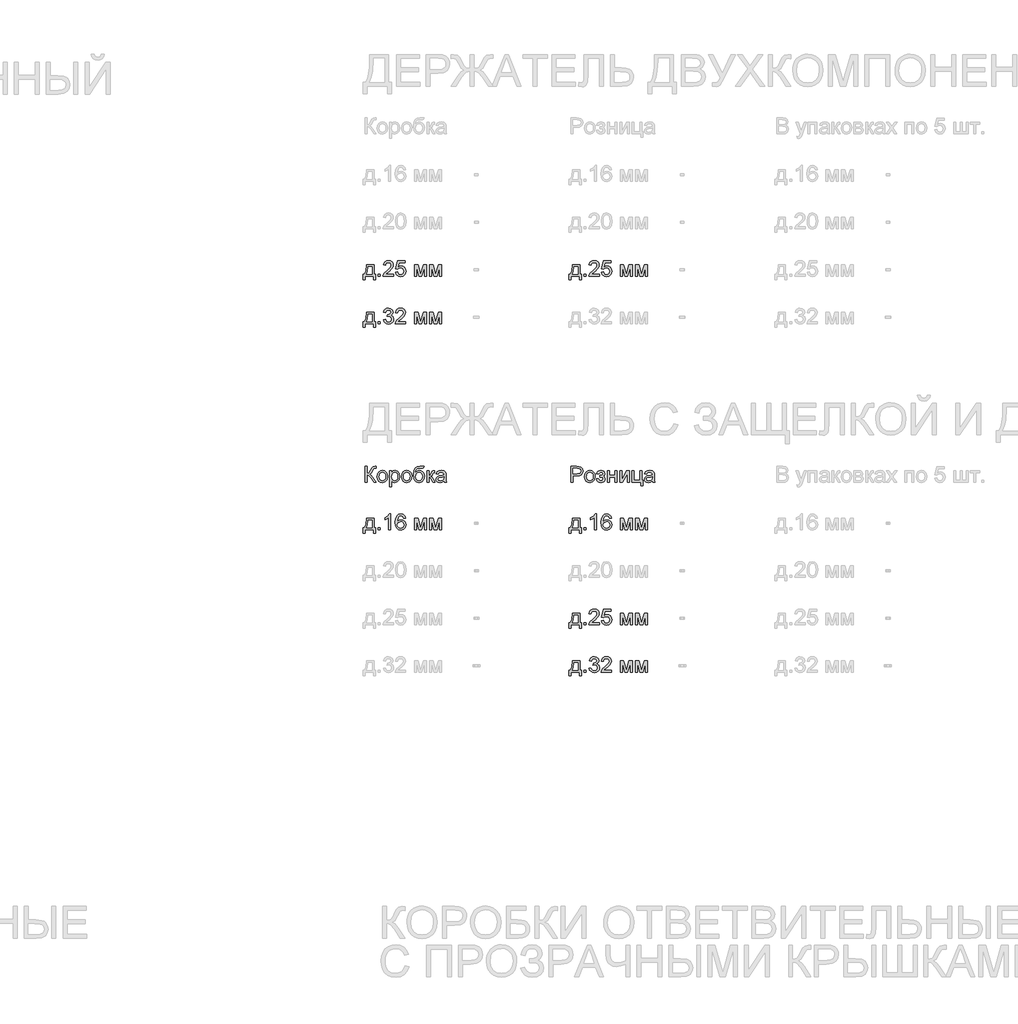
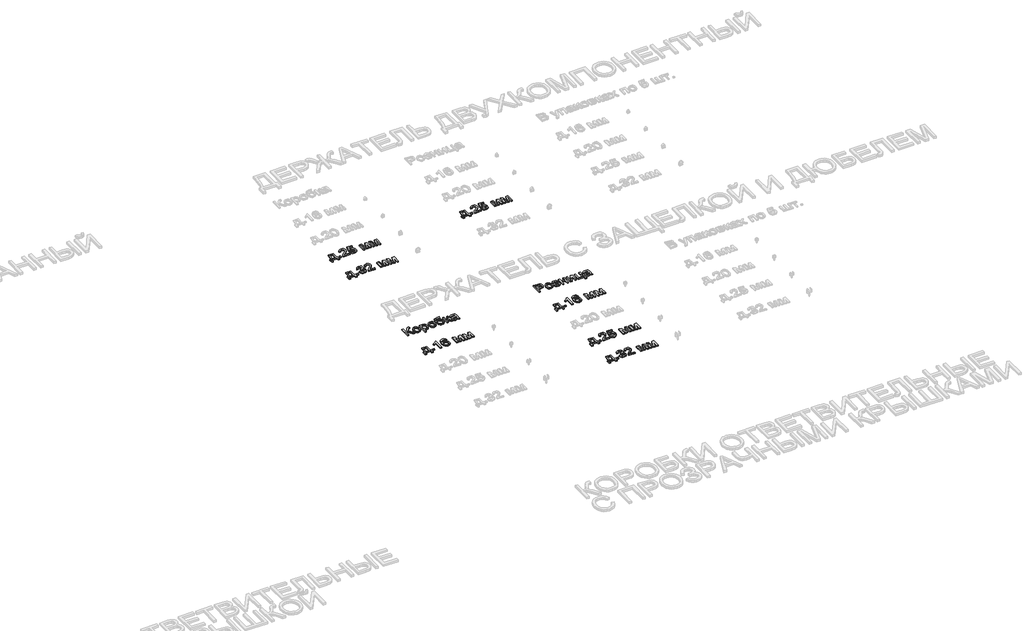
# One storey, part 36 of 98: 9 proxies.
"""IFC4 building model written with IfcOpenShell, lengths in millimetres."""

from ifc_helpers import new_model, si_unit, origin, origin_with_axes, place, context, project, spatial, polyline, outline, extrude, element, save

model = new_model("IFC4")

# Units and contexts
model_context = context("Model", 3, world=origin())
ifc_project = project(units=[si_unit("LENGTHUNIT", "METRE", prefix="MILLI")], contexts=[model_context])

# Site, building, storey
site = spatial("IfcSite", under=ifc_project)
building = spatial("IfcBuilding", under=site)
storey = spatial("IfcBuildingStorey", under=building, Name="Этаж 01", Elevation=0.0)

# Proxies
placement = place(None, origin())
element("IfcBuildingElementProxy", 1, Name="100", ObjectType="100", at=placement, inside=storey, context=model_context, shape_type="SweptSolid", body=[
    extrude(outline(polyline([(5774.7606918, -37185.7395637), (5821.8495872, -37185.7395637), (5821.8495872, -37246.9551277), (5831.2673663, -37246.9551277), (5831.2673663, -37279.9173545), (5818.7103275, -37279.9173545), (5818.7103275, -37259.5121665), (5766.9125426, -37259.5121665), (5766.9125426, -37279.9173545), (5754.3555038, -37279.9173545), (5754.3555038, -37246.9551277), (5762.2036531, -37246.9551277), (5771.903475, -37223.0060098), (5774.7606918, -37185.7395637)]), holes=[polyline([(5785.7481007, -37198.2966025), (5782.8050448, -37226.905559), (5776.3303217, -37246.9551277), (5809.2925484, -37246.9551277), (5809.2925484, -37198.2966025), (5785.7481007, -37198.2966025)])]), origin_with_axes(), (0.0, 0.0, 1.0), 10.0),
    extrude(outline(polyline([(5848.5332946, -37259.5121665), (5848.5332946, -37246.9551277), (5861.0903334, -37246.9551277), (5861.0903334, -37259.5121665), (5848.5332946, -37259.5121665)])), origin_with_axes(), (0.0, 0.0, 1.0), 10.0),
    extrude(outline(polyline([(5945.850345, -37246.9551277), (5945.850345, -37259.5121665), (5879.9258915, -37259.5121665), (5881.2747922, -37250.8546768), (5888.9022122, -37237.5250859), (5904.6230361, -37222.9692216), (5926.3035484, -37202.0489988), (5931.7236764, -37187.8242283), (5926.6101167, -37176.3095219), (5913.2560003, -37171.6128951), (5899.3377981, -37176.1991573), (5894.0525601, -37188.8788234), (5881.4955214, -37187.3091935), (5884.5397449, -37175.1629563), (5891.1217669, -37166.2908689), (5900.8982309, -37160.8646095), (5913.5257804, -37159.0558563), (5926.2453004, -37161.0669445), (5936.0033703, -37167.1002093), (5942.211379, -37176.1133182), (5944.2807152, -37187.0639389), (5942.0488978, -37198.9710528), (5934.6299442, -37211.2828369), (5916.6405146, -37228.4874515), (5902.195015, -37240.5662437), (5896.5296322, -37246.9551277), (5945.850345, -37246.9551277)])), origin_with_axes(), (0.0, 0.0, 1.0), 10.0),
    extrude(outline(polyline([(5958.4073838, -37232.8284591), (5970.9644226, -37231.2588292), (5977.2919929, -37244.1960127), (5990.4131174, -37248.5247575), (5999.4139635, -37247.019507), (6006.1584668, -37242.5037555), (6010.3707156, -37235.4986692), (6011.7747986, -37226.5254142), (6006.5140861, -37211.6139307), (5999.9075386, -37207.5120464), (5990.6093211, -37206.1447517), (5979.585124, -37208.3275182), (5972.5340524, -37213.9929009), (5959.9770137, -37212.4232711), (5970.9644226, -37160.6254862), (6019.6229478, -37160.6254862), (6019.6229478, -37173.1825249), (5981.1179657, -37173.1825249), (5975.7468885, -37200.847251), (5984.7170778, -37195.4025974), (5994.1164628, -37193.5877129), (6005.8488328, -37195.8379245), (6015.5885086, -37202.5885591), (6022.1460052, -37212.8769922), (6024.3318374, -37225.7405993), (6022.3636687, -37238.2976381), (6016.4591627, -37249.0397923), (6005.1529227, -37258.0712953), (5990.3640665, -37261.0817963), (5978.0308226, -37259.1473501), (5968.2053076, -37253.3440117), (5961.4700014, -37244.3462312), (5958.4073838, -37232.8284591)])), origin_with_axes(), (0.0, 0.0, 1.0), 10.0),
    extrude(outline(polyline([(6077.6992521, -37185.7395637), (6099.306188, -37185.7395637), (6115.9589796, -37244.7968867), (6133.911621, -37185.7395637), (6154.6111146, -37185.7395637), (6154.6111146, -37259.5121665), (6142.0540758, -37259.5121665), (6142.0540758, -37200.111487), (6124.0033326, -37259.5121665), (6107.5222192, -37259.5121665), (6090.2562909, -37197.2665329), (6090.2562909, -37259.5121665), (6077.6992521, -37259.5121665), (6077.6992521, -37185.7395637)])), origin_with_axes(), (0.0, 0.0, 1.0), 10.0),
    extrude(outline(polyline([(6173.4466727, -37185.7395637), (6195.0536086, -37185.7395637), (6211.7064002, -37244.7968867), (6229.6590416, -37185.7395637), (6250.3585352, -37185.7395637), (6250.3585352, -37259.5121665), (6237.8014964, -37259.5121665), (6237.8014964, -37200.111487), (6219.7507532, -37259.5121665), (6203.2696398, -37259.5121665), (6186.0037115, -37197.2665329), (6186.0037115, -37259.5121665), (6173.4466727, -37259.5121665), (6173.4466727, -37185.7395637)])), origin_with_axes(), (0.0, 0.0, 1.0), 10.0),
])
element("IfcBuildingElementProxy", 2, Name="100", ObjectType="100", at=placement, inside=storey, context=model_context, shape_type="SweptSolid", body=[
    extrude(outline(polyline([(5774.7606918, -37485.7395637), (5821.8495872, -37485.7395637), (5821.8495872, -37546.9551277), (5831.2673663, -37546.9551277), (5831.2673663, -37579.9173545), (5818.7103275, -37579.9173545), (5818.7103275, -37559.5121665), (5766.9125426, -37559.5121665), (5766.9125426, -37579.9173545), (5754.3555038, -37579.9173545), (5754.3555038, -37546.9551277), (5762.2036531, -37546.9551277), (5771.903475, -37523.0060098), (5774.7606918, -37485.7395637)]), holes=[polyline([(5785.7481007, -37498.2966025), (5782.8050448, -37526.905559), (5776.3303217, -37546.9551277), (5809.2925484, -37546.9551277), (5809.2925484, -37498.2966025), (5785.7481007, -37498.2966025)])]), origin_with_axes(), (0.0, 0.0, 1.0), 10.0),
    extrude(outline(polyline([(5848.5332946, -37559.5121665), (5848.5332946, -37546.9551277), (5861.0903334, -37546.9551277), (5861.0903334, -37559.5121665), (5848.5332946, -37559.5121665)])), origin_with_axes(), (0.0, 0.0, 1.0), 10.0),
    extrude(outline(polyline([(5881.4955214, -37532.8284591), (5894.0525601, -37531.2588292), (5900.9810044, -37544.4780556), (5913.9427133, -37548.5247575), (5922.551152, -37547.1329373), (5929.1975534, -37542.9574767), (5934.8629361, -37529.1741646), (5929.2466043, -37516.1879302), (5914.9727829, -37511.049845), (5906.1681405, -37512.4232711), (5907.5660921, -37499.8662323), (5909.5771803, -37500.0133851), (5923.8264763, -37496.4081416), (5928.572154, -37491.8341421), (5930.1540466, -37485.3226308), (5925.5677844, -37475.5001815), (5913.7465096, -37471.6128951), (5901.778082, -37475.5369697), (5895.62219, -37487.3091935), (5883.0651512, -37485.7395637), (5886.7623653, -37474.4639805), (5893.3413216, -37466.0456142), (5902.3421678, -37460.8032958), (5913.3050512, -37459.0558563), (5928.4495267, -37462.5016843), (5939.0445281, -37471.9194634), (5942.7110854, -37484.5868668), (5939.2284691, -37496.1628869), (5928.9277733, -37504.47702), (5942.6129835, -37513.0609332), (5947.4199749, -37529.3948938), (5945.0164792, -37541.6331015), (5937.8059921, -37551.860221), (5926.9228164, -37558.7764025), (5913.5012549, -37561.0817963), (5901.3611491, -37559.1136276), (5891.4773862, -37553.2091216), (5884.6041242, -37544.1776186), (5881.4955214, -37532.8284591)])), origin_with_axes(), (0.0, 0.0, 1.0), 10.0),
    extrude(outline(polyline([(6022.7622075, -37546.9551277), (6022.7622075, -37559.5121665), (5956.837754, -37559.5121665), (5958.1866546, -37550.8546768), (5965.8140747, -37537.5250859), (5981.5348986, -37522.9692216), (6003.2154108, -37502.0489988), (6008.6355389, -37487.8242283), (6003.5219792, -37476.3095219), (5990.1678627, -37471.6128951), (5976.2496606, -37476.1991573), (5970.9644226, -37488.8788234), (5958.4073838, -37487.3091935), (5961.4516073, -37475.1629563), (5968.0336294, -37466.2908689), (5977.8100934, -37460.8646095), (5990.4376429, -37459.0558563), (6003.1571628, -37461.0669445), (6012.9152328, -37467.1002093), (6019.1232414, -37476.1133182), (6021.1925777, -37487.0639389), (6018.9607602, -37498.9710528), (6011.5418067, -37511.2828369), (5993.5523771, -37528.4874515), (5979.1068774, -37540.5662437), (5973.4414947, -37546.9551277), (6022.7622075, -37546.9551277)])), origin_with_axes(), (0.0, 0.0, 1.0), 10.0),
    extrude(outline(polyline([(6077.6992521, -37485.7395637), (6099.306188, -37485.7395637), (6115.9589796, -37544.7968867), (6133.911621, -37485.7395637), (6154.6111146, -37485.7395637), (6154.6111146, -37559.5121665), (6142.0540758, -37559.5121665), (6142.0540758, -37500.111487), (6124.0033326, -37559.5121665), (6107.5222192, -37559.5121665), (6090.2562909, -37497.2665329), (6090.2562909, -37559.5121665), (6077.6992521, -37559.5121665), (6077.6992521, -37485.7395637)])), origin_with_axes(), (0.0, 0.0, 1.0), 10.0),
    extrude(outline(polyline([(6173.4466727, -37485.7395637), (6195.0536086, -37485.7395637), (6211.7064002, -37544.7968867), (6229.6590416, -37485.7395637), (6250.3585352, -37485.7395637), (6250.3585352, -37559.5121665), (6237.8014964, -37559.5121665), (6237.8014964, -37500.111487), (6219.7507532, -37559.5121665), (6203.2696398, -37559.5121665), (6186.0037115, -37497.2665329), (6186.0037115, -37559.5121665), (6173.4466727, -37559.5121665), (6173.4466727, -37485.7395637)])), origin_with_axes(), (0.0, 0.0, 1.0), 10.0),
])
element("IfcBuildingElementProxy", 3, Name="100", ObjectType="100", at=placement, inside=storey, context=model_context, shape_type="SweptSolid", body=[
    extrude(outline(polyline([(7074.7606918, -37185.7395637), (7121.8495872, -37185.7395637), (7121.8495872, -37246.9551277), (7131.2673663, -37246.9551277), (7131.2673663, -37279.9173545), (7118.7103275, -37279.9173545), (7118.7103275, -37259.5121665), (7066.9125426, -37259.5121665), (7066.9125426, -37279.9173545), (7054.3555038, -37279.9173545), (7054.3555038, -37246.9551277), (7062.2036531, -37246.9551277), (7071.903475, -37223.0060098), (7074.7606918, -37185.7395637)]), holes=[polyline([(7085.7481007, -37198.2966025), (7082.8050448, -37226.905559), (7076.3303217, -37246.9551277), (7109.2925484, -37246.9551277), (7109.2925484, -37198.2966025), (7085.7481007, -37198.2966025)])]), origin_with_axes(), (0.0, 0.0, 1.0), 10.0),
    extrude(outline(polyline([(7148.5332946, -37259.5121665), (7148.5332946, -37246.9551277), (7161.0903334, -37246.9551277), (7161.0903334, -37259.5121665), (7148.5332946, -37259.5121665)])), origin_with_axes(), (0.0, 0.0, 1.0), 10.0),
    extrude(outline(polyline([(7245.850345, -37246.9551277), (7245.850345, -37259.5121665), (7179.9258915, -37259.5121665), (7181.2747922, -37250.8546768), (7188.9022122, -37237.5250859), (7204.6230361, -37222.9692216), (7226.3035484, -37202.0489988), (7231.7236764, -37187.8242283), (7226.6101167, -37176.3095219), (7213.2560003, -37171.6128951), (7199.3377981, -37176.1991573), (7194.0525601, -37188.8788234), (7181.4955214, -37187.3091935), (7184.5397449, -37175.1629563), (7191.1217669, -37166.2908689), (7200.8982309, -37160.8646095), (7213.5257804, -37159.0558563), (7226.2453004, -37161.0669445), (7236.0033703, -37167.1002093), (7242.211379, -37176.1133182), (7244.2807152, -37187.0639389), (7242.0488978, -37198.9710528), (7234.6299442, -37211.2828369), (7216.6405146, -37228.4874515), (7202.195015, -37240.5662437), (7196.5296322, -37246.9551277), (7245.850345, -37246.9551277)])), origin_with_axes(), (0.0, 0.0, 1.0), 10.0),
    extrude(outline(polyline([(7258.4073838, -37232.8284591), (7270.9644226, -37231.2588292), (7277.2919929, -37244.1960127), (7290.4131174, -37248.5247575), (7299.4139635, -37247.019507), (7306.1584668, -37242.5037555), (7310.3707156, -37235.4986692), (7311.7747986, -37226.5254142), (7306.5140861, -37211.6139307), (7299.9075386, -37207.5120464), (7290.6093211, -37206.1447517), (7279.585124, -37208.3275182), (7272.5340524, -37213.9929009), (7259.9770137, -37212.4232711), (7270.9644226, -37160.6254862), (7319.6229478, -37160.6254862), (7319.6229478, -37173.1825249), (7281.1179657, -37173.1825249), (7275.7468885, -37200.847251), (7284.7170778, -37195.4025974), (7294.1164628, -37193.5877129), (7305.8488328, -37195.8379245), (7315.5885086, -37202.5885591), (7322.1460052, -37212.8769922), (7324.3318374, -37225.7405993), (7322.3636687, -37238.2976381), (7316.4591627, -37249.0397923), (7305.1529227, -37258.0712953), (7290.3640665, -37261.0817963), (7278.0308226, -37259.1473501), (7268.2053076, -37253.3440117), (7261.4700014, -37244.3462312), (7258.4073838, -37232.8284591)])), origin_with_axes(), (0.0, 0.0, 1.0), 10.0),
    extrude(outline(polyline([(7377.6992521, -37185.7395637), (7399.306188, -37185.7395637), (7415.9589796, -37244.7968867), (7433.911621, -37185.7395637), (7454.6111146, -37185.7395637), (7454.6111146, -37259.5121665), (7442.0540758, -37259.5121665), (7442.0540758, -37200.111487), (7424.0033326, -37259.5121665), (7407.5222192, -37259.5121665), (7390.2562909, -37197.2665329), (7390.2562909, -37259.5121665), (7377.6992521, -37259.5121665), (7377.6992521, -37185.7395637)])), origin_with_axes(), (0.0, 0.0, 1.0), 10.0),
    extrude(outline(polyline([(7473.4466727, -37185.7395637), (7495.0536086, -37185.7395637), (7511.7064002, -37244.7968867), (7529.6590416, -37185.7395637), (7550.3585352, -37185.7395637), (7550.3585352, -37259.5121665), (7537.8014964, -37259.5121665), (7537.8014964, -37200.111487), (7519.7507532, -37259.5121665), (7503.2696398, -37259.5121665), (7486.0037115, -37197.2665329), (7486.0037115, -37259.5121665), (7473.4466727, -37259.5121665), (7473.4466727, -37185.7395637)])), origin_with_axes(), (0.0, 0.0, 1.0), 10.0),
])
element("IfcBuildingElementProxy", 4, Name="100", ObjectType="100", at=placement, inside=storey, context=model_context, shape_type="SweptSolid", body=[
    extrude(outline(polyline([(5774.7606918, -38785.7395637), (5821.8495872, -38785.7395637), (5821.8495872, -38846.9551277), (5831.2673663, -38846.9551277), (5831.2673663, -38879.9173545), (5818.7103275, -38879.9173545), (5818.7103275, -38859.5121665), (5766.9125426, -38859.5121665), (5766.9125426, -38879.9173545), (5754.3555038, -38879.9173545), (5754.3555038, -38846.9551277), (5762.2036531, -38846.9551277), (5771.903475, -38823.0060098), (5774.7606918, -38785.7395637)]), holes=[polyline([(5785.7481007, -38798.2966025), (5782.8050448, -38826.905559), (5776.3303217, -38846.9551277), (5809.2925484, -38846.9551277), (5809.2925484, -38798.2966025), (5785.7481007, -38798.2966025)])]), origin_with_axes(), (0.0, 0.0, 1.0), 10.0),
    extrude(outline(polyline([(5848.5332946, -38859.5121665), (5848.5332946, -38846.9551277), (5861.0903334, -38846.9551277), (5861.0903334, -38859.5121665), (5848.5332946, -38859.5121665)])), origin_with_axes(), (0.0, 0.0, 1.0), 10.0),
    extrude(outline(polyline([(5928.5844167, -38859.5121665), (5916.027378, -38859.5121665), (5916.027378, -38781.2268779), (5904.1325268, -38789.7004265), (5890.9133004, -38796.0402596), (5890.9133004, -38784.1699338), (5909.3196629, -38772.4222355), (5920.4910128, -38759.0558563), (5928.5844167, -38759.0558563), (5928.5844167, -38859.5121665)])), origin_with_axes(), (0.0, 0.0, 1.0), 10.0),
    extrude(outline(polyline([(6022.7622075, -38785.7395637), (6010.2051687, -38787.3091935), (6005.4472283, -38776.8368194), (5992.865664, -38771.6128951), (5981.5348986, -38774.6540529), (5972.9632481, -38786.0706575), (5969.3947927, -38808.4501455), (5980.4680408, -38798.4314925), (5994.1900392, -38795.1573428), (6005.7905848, -38797.3952916), (6015.5271949, -38804.109138), (6022.1306767, -38814.3669143), (6024.3318374, -38827.2366527), (6020.1870335, -38844.5638947), (6008.7826917, -38856.8266279), (5992.3261038, -38861.0817963), (5978.0798735, -38858.2613677), (5966.7337796, -38849.8000818), (5959.3117604, -38834.8640728), (5956.837754, -38812.6194748), (5959.5846062, -38787.6096305), (5967.8251629, -38770.5092491), (5979.0762206, -38761.9192045), (5993.650479, -38759.0558563), (6004.6685447, -38760.8278213), (6013.4915812, -38766.1437161), (6019.6719987, -38774.5866079), (6022.7622075, -38785.7395637)]), holes=[polyline([(5969.3947927, -38827.040449), (5972.3010605, -38837.9174933), (5980.0265824, -38845.8146935), (5991.3450851, -38848.5247575), (5999.6316271, -38847.1206746), (6006.1462041, -38842.9084257), (6010.36765, -38836.2865498), (6011.7747986, -38827.6535857), (6010.3860441, -38819.3670437), (6006.2197805, -38813.0486705), (5999.5948389, -38809.0479538), (5990.8300503, -38807.7143815), (5975.6365239, -38813.0486705), (5970.9552255, -38819.2137596), (5969.3947927, -38827.040449)])]), origin_with_axes(), (0.0, 0.0, 1.0), 10.0),
    extrude(outline(polyline([(6077.6992521, -38785.7395637), (6099.306188, -38785.7395637), (6115.9589796, -38844.7968867), (6133.911621, -38785.7395637), (6154.6111146, -38785.7395637), (6154.6111146, -38859.5121665), (6142.0540758, -38859.5121665), (6142.0540758, -38800.111487), (6124.0033326, -38859.5121665), (6107.5222192, -38859.5121665), (6090.2562909, -38797.2665329), (6090.2562909, -38859.5121665), (6077.6992521, -38859.5121665), (6077.6992521, -38785.7395637)])), origin_with_axes(), (0.0, 0.0, 1.0), 10.0),
    extrude(outline(polyline([(6173.4466727, -38785.7395637), (6195.0536086, -38785.7395637), (6211.7064002, -38844.7968867), (6229.6590416, -38785.7395637), (6250.3585352, -38785.7395637), (6250.3585352, -38859.5121665), (6237.8014964, -38859.5121665), (6237.8014964, -38800.111487), (6219.7507532, -38859.5121665), (6203.2696398, -38859.5121665), (6186.0037115, -38797.2665329), (6186.0037115, -38859.5121665), (6173.4466727, -38859.5121665), (6173.4466727, -38785.7395637)])), origin_with_axes(), (0.0, 0.0, 1.0), 10.0),
])
element("IfcBuildingElementProxy", 5, Name="100", ObjectType="100", at=placement, inside=storey, context=model_context, shape_type="SweptSolid", body=[
    extrude(outline(polyline([(5765.3429127, -38459.0558563), (5777.8999515, -38459.0558563), (5777.8999515, -38503.005492), (5791.940781, -38499.6822913), (5801.7387048, -38482.8700841), (5808.667149, -38468.8292546), (5816.5152983, -38461.8762849), (5827.7356991, -38459.0558563), (5835.9762558, -38459.2030091), (5835.9762558, -38471.7600479), (5833.2048781, -38471.6864715), (5830.4335004, -38471.6128951), (5820.6233139, -38474.6295274), (5813.1675721, -38487.5544482), (5804.2770906, -38503.2997976), (5795.6073382, -38508.4991965), (5805.3010288, -38514.1768419), (5814.8598293, -38526.0103794), (5835.9762558, -38559.5121665), (5821.4081288, -38559.5121665), (5803.5535893, -38531.2097783), (5790.9842878, -38516.4331848), (5777.8999515, -38512.4232711), (5777.8999515, -38559.5121665), (5765.3429127, -38559.5121665), (5765.3429127, -38459.0558563)])), origin_with_axes(), (0.0, 0.0, 1.0), 10.0),
    extrude(outline(polyline([(5842.2547752, -38522.6258651), (5844.9709706, -38504.8387706), (5853.1195568, -38492.3369141), (5863.1872607, -38486.2116789), (5875.2415274, -38484.1699338), (5888.4331627, -38486.656203), (5898.9699161, -38494.1150104), (5905.8769006, -38505.957745), (5908.1792287, -38521.5957955), (5904.1080013, -38543.9384953), (5892.2499384, -38556.5813732), (5875.2415274, -38561.0817963), (5861.8904767, -38558.6047242), (5851.365986, -38551.1735079), (5844.5325779, -38539.082453), (5842.2547752, -38522.6258651)]), holes=[polyline([(5854.811814, -38522.6013396), (5856.2649479, -38533.9658276), (5860.6243495, -38542.0622972), (5867.1849117, -38546.9091424), (5875.2415274, -38548.5247575), (5883.2613549, -38546.8999454), (5889.8096545, -38542.025509), (5894.1690561, -38533.8217405), (5895.62219, -38522.2089321), (5894.159859, -38511.175538), (5889.7728663, -38503.189433), (5883.2153697, -38498.3425877), (5875.2415274, -38496.7269726), (5867.1849117, -38498.3364563), (5860.6243495, -38503.1649075), (5856.2649479, -38511.242983), (5854.811814, -38522.6013396)])]), origin_with_axes(), (0.0, 0.0, 1.0), 10.0),
    extrude(outline(polyline([(5922.3058974, -38587.7655037), (5922.3058974, -38485.7395637), (5934.8629361, -38485.7395637), (5934.8629361, -38498.0513478), (5943.5449512, -38487.6402873), (5955.2681241, -38484.1699338), (5971.1851518, -38489.0259762), (5981.5839495, -38502.7111864), (5985.0910912, -38522.0617793), (5981.1302284, -38542.4056537), (5969.6277847, -38556.2625422), (5953.7475452, -38561.0817963), (5942.82145, -38557.8566975), (5934.8629361, -38549.7019799), (5934.8629361, -38587.7655037), (5922.3058974, -38587.7655037)]), holes=[polyline([(5934.8629361, -38523.2144763), (5936.2210338, -38534.4716653), (5940.2953269, -38542.34434), (5946.3071319, -38546.9796532), (5953.4777651, -38548.5247575), (5960.7648943, -38546.9244709), (5966.9299834, -38542.1236108), (5971.1330352, -38533.9627619), (5972.5340524, -38522.2825085), (5971.1667577, -38511.0866332), (5967.0648734, -38503.1035939), (5961.0622655, -38498.3211279), (5953.9927999, -38496.7269726), (5946.8957431, -38498.4222955), (5940.6632089, -38503.5082641), (5936.3130043, -38511.8254628), (5934.8629361, -38523.2144763)])]), origin_with_axes(), (0.0, 0.0, 1.0), 10.0),
    extrude(outline(polyline([(5996.0785001, -38522.6258651), (5998.7946955, -38504.8387706), (6006.9432817, -38492.3369141), (6017.0109856, -38486.2116789), (6029.0652524, -38484.1699338), (6042.2568876, -38486.656203), (6052.793641, -38494.1150104), (6059.7006255, -38505.957745), (6062.0029537, -38521.5957955), (6057.9317262, -38543.9384953), (6046.0736633, -38556.5813732), (6029.0652524, -38561.0817963), (6015.7142016, -38558.6047242), (6005.1897109, -38551.1735079), (5998.3563028, -38539.082453), (5996.0785001, -38522.6258651)]), holes=[polyline([(6008.6355389, -38522.6013396), (6010.0886728, -38533.9658276), (6014.4480744, -38542.0622972), (6021.0086367, -38546.9091424), (6029.0652524, -38548.5247575), (6037.0850799, -38546.8999454), (6043.6333794, -38542.025509), (6047.992781, -38533.8217405), (6049.4459149, -38522.2089321), (6047.983584, -38511.175538), (6043.5965912, -38503.189433), (6037.0390946, -38498.3425877), (6029.0652524, -38496.7269726), (6021.0086367, -38498.3364563), (6014.4480744, -38503.1649075), (6010.0886728, -38511.242983), (6008.6355389, -38522.6013396)])]), origin_with_axes(), (0.0, 0.0, 1.0), 10.0),
    extrude(outline(polyline([(6127.9274072, -38457.4862265), (6138.9148161, -38457.4862265), (6135.6774546, -38467.2841503), (6129.2763078, -38470.8280802), (6113.8988404, -38471.6128951), (6093.1870841, -38474.5069001), (6085.240833, -38483.7775264), (6082.5552945, -38500.1850634), (6093.4323388, -38488.1675849), (6107.4486428, -38484.1699338), (6120.514585, -38486.7113853), (6131.1157178, -38494.3357396), (6138.1422639, -38506.2949702), (6140.484446, -38521.8410502), (6135.8368701, -38543.447986), (6124.812673, -38556.4832714), (6107.4486428, -38561.0817963), (6096.1148117, -38559.6010713), (6087.6198033, -38555.1588962), (6076.7672844, -38540.002158), (6072.9903626, -38507.8370089), (6075.3723985, -38483.7438039), (6082.5185063, -38469.0499838), (6094.6064955, -38461.5543882), (6111.8141758, -38459.0558563), (6125.7936916, -38458.7738134), (6127.9274072, -38457.4862265)]), holes=[polyline([(6127.9274072, -38521.4486427), (6126.5662438, -38511.5679454), (6122.4827537, -38503.6554169), (6115.9221914, -38498.4590837), (6107.1298117, -38496.7269726), (6097.9634187, -38498.5571855), (6091.1637331, -38504.0478243), (6086.9514843, -38512.598015), (6085.5474014, -38523.6068837), (6087.0986371, -38534.2785273), (6091.7523443, -38542.1113481), (6098.6807886, -38546.9214052), (6107.0562353, -38548.5247575), (6115.4746017, -38546.6700191), (6122.1393971, -38541.105804), (6126.4804047, -38532.4820369), (6127.9274072, -38521.4486427)])]), origin_with_axes(), (0.0, 0.0, 1.0), 10.0),
    extrude(outline(polyline([(6156.1807444, -38485.7395637), (6168.7377832, -38485.7395637), (6168.7377832, -38517.1321606), (6177.1500181, -38514.8758177), (6184.0416742, -38501.7301677), (6189.7683706, -38490.3871396), (6194.8206167, -38486.6960569), (6204.0054038, -38485.7395637), (6206.4088995, -38485.7395637), (6206.4088995, -38498.3701789), (6203.0243851, -38498.2966025), (6196.8930186, -38499.6209776), (6192.5765365, -38507.8860598), (6187.5120277, -38516.8255923), (6180.4119052, -38521.203388), (6188.3336308, -38526.0900872), (6196.1082036, -38536.3846517), (6209.5481592, -38559.5121665), (6195.2743378, -38559.5121665), (6182.1041624, -38536.875161), (6175.4822864, -38527.2979664), (6168.7377832, -38524.9803098), (6168.7377832, -38559.5121665), (6156.1807444, -38559.5121665), (6156.1807444, -38485.7395637)])), origin_with_axes(), (0.0, 0.0, 1.0), 10.0),
    extrude(outline(polyline([(6264.4852038, -38550.0943874), (6252.3083098, -38558.6047242), (6238.8560915, -38561.0817963), (6228.3622576, -38559.5918742), (6220.6214072, -38555.122108), (6215.8481384, -38548.3346852), (6214.2570487, -38539.8917934), (6216.6605444, -38529.9589795), (6222.975852, -38522.7484924), (6231.7682317, -38518.6282141), (6242.6330133, -38516.7397532), (6264.4116274, -38512.4232711), (6264.4852038, -38509.6273679), (6261.027113, -38500.3567416), (6247.1456991, -38496.7269726), (6234.4415075, -38499.142731), (6228.3837173, -38507.7143815), (6215.8266786, -38506.1447517), (6221.2590694, -38493.8820185), (6232.1974274, -38486.6960569), (6248.7643799, -38484.1699338), (6263.9824317, -38486.4017513), (6272.5786077, -38492.0058203), (6276.4291059, -38500.5284199), (6277.0422426, -38511.5158288), (6277.0422426, -38527.1385509), (6277.6799047, -38548.9539532), (6280.1815023, -38559.5121665), (6267.6244635, -38559.5121665), (6264.4852038, -38550.0943874)]), holes=[polyline([(6264.4852038, -38524.9803098), (6244.2271686, -38528.8308081), (6233.4237007, -38530.8664218), (6228.5308701, -38534.1773597), (6226.8140875, -38539.0088766), (6230.5542211, -38545.8024308), (6241.5293673, -38548.5247575), (6254.2335589, -38545.5203879), (6262.4250646, -38538.2485871), (6264.4116274, -38528.5365025), (6264.4852038, -38524.9803098)])]), origin_with_axes(), (0.0, 0.0, 1.0), 10.0),
])
element("IfcBuildingElementProxy", 6, Name="100", ObjectType="100", at=placement, inside=storey, context=model_context, shape_type="SweptSolid", body=[
    extrude(outline(polyline([(7065.3429127, -38559.5121665), (7065.3429127, -38459.0558563), (7102.5725707, -38459.0558563), (7117.5821561, -38460.0123495), (7129.7835756, -38464.7089763), (7137.6930385, -38474.421061), (7140.6851454, -38488.1185339), (7138.6648601, -38499.9582028), (7132.6040042, -38509.8235716), (7121.2701731, -38516.4822358), (7103.430962, -38518.7017905), (7077.8999515, -38518.7017905), (7077.8999515, -38559.5121665), (7065.3429127, -38559.5121665)]), holes=[polyline([(7077.8999515, -38506.1447517), (7104.166726, -38506.1447517), (7122.6589276, -38501.533964), (7126.7608118, -38495.9850773), (7128.1281066, -38488.5599923), (7124.9030078, -38478.1611946), (7116.4294591, -38472.4712864), (7103.8724204, -38471.6128951), (7077.8999515, -38471.6128951), (7077.8999515, -38506.1447517)])]), origin_with_axes(), (0.0, 0.0, 1.0), 10.0),
    extrude(outline(polyline([(7153.2421841, -38522.6258651), (7155.9583795, -38504.8387706), (7164.1069657, -38492.3369141), (7174.1746697, -38486.2116789), (7186.2289364, -38484.1699338), (7199.4205716, -38486.656203), (7209.9573251, -38494.1150104), (7216.8643095, -38505.957745), (7219.1666377, -38521.5957955), (7215.0954103, -38543.9384953), (7203.2373473, -38556.5813732), (7186.2289364, -38561.0817963), (7172.8778856, -38558.6047242), (7162.3533949, -38551.1735079), (7155.5199868, -38539.082453), (7153.2421841, -38522.6258651)]), holes=[polyline([(7165.7992229, -38522.6013396), (7167.2523568, -38533.9658276), (7171.6117584, -38542.0622972), (7178.1723207, -38546.9091424), (7186.2289364, -38548.5247575), (7194.2487639, -38546.8999454), (7200.7970634, -38542.025509), (7205.156465, -38533.8217405), (7206.6095989, -38522.2089321), (7205.147268, -38511.175538), (7200.7602752, -38503.189433), (7194.2027786, -38498.3425877), (7186.2289364, -38496.7269726), (7178.1723207, -38498.3364563), (7171.6117584, -38503.1649075), (7167.2523568, -38511.242983), (7165.7992229, -38522.6013396)])]), origin_with_axes(), (0.0, 0.0, 1.0), 10.0),
    extrude(outline(polyline([(7250.5592346, -38526.5499397), (7250.5592346, -38513.9929009), (7260.467523, -38513.5023916), (7265.4707181, -38510.8904294), (7267.8251629, -38505.4335132), (7264.6736405, -38499.0936801), (7256.5434484, -38496.7269726), (7248.1434762, -38499.0814174), (7242.7110854, -38506.1447517), (7228.5844167, -38504.5751218), (7238.0267213, -38489.2712308), (7255.2681241, -38484.1699338), (7265.7650237, -38485.7242353), (7273.7112748, -38490.3871396), (7278.71447, -38497.2082849), (7280.3822017, -38505.2373094), (7278.0093628, -38513.0364077), (7270.8908462, -38519.0696725), (7279.1927165, -38526.8932962), (7281.9518315, -38538.1504853), (7280.2013263, -38547.3935204), (7274.9498109, -38554.7174378), (7266.5529043, -38559.4907067), (7255.366226, -38561.0817963), (7244.4248023, -38559.6102683), (7236.0524212, -38555.1956844), (7230.2490828, -38547.8380445), (7227.0147869, -38537.5373486), (7241.1414555, -38535.9677188), (7246.8068382, -38545.238345), (7256.5679738, -38548.5247575), (7265.7404983, -38545.3732351), (7269.3947927, -38537.3166194), (7267.1261871, -38530.719269), (7262.2946702, -38527.1876018), (7253.0117812, -38526.4763633), (7250.5592346, -38526.5499397)])), origin_with_axes(), (0.0, 0.0, 1.0), 10.0),
    extrude(outline(polyline([(7297.64813, -38485.7395637), (7310.2051687, -38485.7395637), (7310.2051687, -38513.9929009), (7343.1673955, -38513.9929009), (7343.1673955, -38485.7395637), (7355.7244343, -38485.7395637), (7355.7244343, -38559.5121665), (7343.1673955, -38559.5121665), (7343.1673955, -38526.5499397), (7310.2051687, -38526.5499397), (7310.2051687, -38559.5121665), (7297.64813, -38559.5121665), (7297.64813, -38485.7395637)])), origin_with_axes(), (0.0, 0.0, 1.0), 10.0),
    extrude(outline(polyline([(7374.5599924, -38485.7395637), (7387.1170312, -38485.7395637), (7387.1170312, -38542.0009835), (7417.9700679, -38485.7395637), (7434.2059266, -38485.7395637), (7434.2059266, -38559.5121665), (7421.6488878, -38559.5121665), (7421.6488878, -38503.5941032), (7390.9920549, -38559.5121665), (7374.5599924, -38559.5121665), (7374.5599924, -38485.7395637)])), origin_with_axes(), (0.0, 0.0, 1.0), 10.0),
    extrude(outline(polyline([(7453.0414847, -38485.7395637), (7465.5985235, -38485.7395637), (7465.5985235, -38546.9551277), (7501.70001, -38546.9551277), (7501.70001, -38485.7395637), (7514.2570487, -38485.7395637), (7514.2570487, -38546.9551277), (7522.105198, -38546.9551277), (7522.105198, -38579.9173545), (7509.5481592, -38579.9173545), (7509.5481592, -38559.5121665), (7453.0414847, -38559.5121665), (7453.0414847, -38485.7395637)])), origin_with_axes(), (0.0, 0.0, 1.0), 10.0),
    extrude(outline(polyline([(7580.1815023, -38550.0943874), (7568.0046082, -38558.6047242), (7554.5523899, -38561.0817963), (7544.058556, -38559.5918742), (7536.3177057, -38555.122108), (7531.5444368, -38548.3346852), (7529.9533472, -38539.8917934), (7532.3568429, -38529.9589795), (7538.6721505, -38522.7484924), (7547.4645302, -38518.6282141), (7558.3293118, -38516.7397532), (7580.1079259, -38512.4232711), (7580.1815023, -38509.6273679), (7576.7234115, -38500.3567416), (7562.8419976, -38496.7269726), (7550.137806, -38499.1427311), (7544.0800158, -38507.7143815), (7531.522977, -38506.1447517), (7536.9553678, -38493.8820185), (7547.8937258, -38486.6960569), (7564.4606783, -38484.1699338), (7579.6787302, -38486.4017513), (7588.2749062, -38492.0058203), (7592.1254044, -38500.5284199), (7592.738541, -38511.5158288), (7592.738541, -38527.1385509), (7593.3762032, -38548.9539532), (7595.8778007, -38559.5121665), (7583.320762, -38559.5121665), (7580.1815023, -38550.0943874)]), holes=[polyline([(7580.1815023, -38524.9803098), (7559.9234671, -38528.8308081), (7549.1199991, -38530.8664218), (7544.2271686, -38534.1773597), (7542.510386, -38539.0088766), (7546.2505196, -38545.8024308), (7557.2256658, -38548.5247575), (7569.9298573, -38545.5203879), (7578.1213631, -38538.2485871), (7580.1079259, -38528.5365025), (7580.1815023, -38524.9803098)])]), origin_with_axes(), (0.0, 0.0, 1.0), 10.0),
])
element("IfcBuildingElementProxy", 7, Name="100", ObjectType="100", at=placement, inside=storey, context=model_context, shape_type="SweptSolid", body=[
    extrude(outline(polyline([(7074.7606918, -38785.7395637), (7121.8495872, -38785.7395637), (7121.8495872, -38846.9551277), (7131.2673663, -38846.9551277), (7131.2673663, -38879.9173545), (7118.7103275, -38879.9173545), (7118.7103275, -38859.5121665), (7066.9125426, -38859.5121665), (7066.9125426, -38879.9173545), (7054.3555038, -38879.9173545), (7054.3555038, -38846.9551277), (7062.2036531, -38846.9551277), (7071.903475, -38823.0060098), (7074.7606918, -38785.7395637)]), holes=[polyline([(7085.7481007, -38798.2966025), (7082.8050448, -38826.905559), (7076.3303217, -38846.9551277), (7109.2925484, -38846.9551277), (7109.2925484, -38798.2966025), (7085.7481007, -38798.2966025)])]), origin_with_axes(), (0.0, 0.0, 1.0), 10.0),
    extrude(outline(polyline([(7148.5332946, -38859.5121665), (7148.5332946, -38846.9551277), (7161.0903334, -38846.9551277), (7161.0903334, -38859.5121665), (7148.5332946, -38859.5121665)])), origin_with_axes(), (0.0, 0.0, 1.0), 10.0),
    extrude(outline(polyline([(7228.5844167, -38859.5121665), (7216.027378, -38859.5121665), (7216.027378, -38781.2268779), (7204.1325268, -38789.7004265), (7190.9133004, -38796.0402596), (7190.9133004, -38784.1699338), (7209.3196629, -38772.4222355), (7220.4910128, -38759.0558563), (7228.5844167, -38759.0558563), (7228.5844167, -38859.5121665)])), origin_with_axes(), (0.0, 0.0, 1.0), 10.0),
    extrude(outline(polyline([(7322.7622075, -38785.7395637), (7310.2051687, -38787.3091935), (7305.4472283, -38776.8368194), (7292.865664, -38771.6128951), (7281.5348986, -38774.6540529), (7272.9632481, -38786.0706575), (7269.3947927, -38808.4501455), (7280.4680408, -38798.4314925), (7294.1900392, -38795.1573428), (7305.7905848, -38797.3952916), (7315.5271949, -38804.109138), (7322.1306767, -38814.3669143), (7324.3318374, -38827.2366527), (7320.1870335, -38844.5638947), (7308.7826917, -38856.8266279), (7292.3261038, -38861.0817963), (7278.0798735, -38858.2613677), (7266.7337796, -38849.8000818), (7259.3117604, -38834.8640728), (7256.837754, -38812.6194748), (7259.5846062, -38787.6096305), (7267.8251629, -38770.5092491), (7279.0762206, -38761.9192045), (7293.650479, -38759.0558563), (7304.6685447, -38760.8278213), (7313.4915812, -38766.1437161), (7319.6719987, -38774.5866079), (7322.7622075, -38785.7395637)]), holes=[polyline([(7269.3947927, -38827.040449), (7272.3010605, -38837.9174933), (7280.0265824, -38845.8146935), (7291.3450851, -38848.5247575), (7299.6316271, -38847.1206746), (7306.1462041, -38842.9084257), (7310.36765, -38836.2865498), (7311.7747986, -38827.6535857), (7310.3860441, -38819.3670437), (7306.2197805, -38813.0486705), (7299.5948389, -38809.0479538), (7290.8300503, -38807.7143815), (7275.6365239, -38813.0486705), (7270.9552255, -38819.2137596), (7269.3947927, -38827.040449)])]), origin_with_axes(), (0.0, 0.0, 1.0), 10.0),
    extrude(outline(polyline([(7377.6992521, -38785.7395637), (7399.306188, -38785.7395637), (7415.9589796, -38844.7968867), (7433.911621, -38785.7395637), (7454.6111146, -38785.7395637), (7454.6111146, -38859.5121665), (7442.0540758, -38859.5121665), (7442.0540758, -38800.111487), (7424.0033326, -38859.5121665), (7407.5222192, -38859.5121665), (7390.2562909, -38797.2665329), (7390.2562909, -38859.5121665), (7377.6992521, -38859.5121665), (7377.6992521, -38785.7395637)])), origin_with_axes(), (0.0, 0.0, 1.0), 10.0),
    extrude(outline(polyline([(7473.4466727, -38785.7395637), (7495.0536086, -38785.7395637), (7511.7064002, -38844.7968867), (7529.6590416, -38785.7395637), (7550.3585352, -38785.7395637), (7550.3585352, -38859.5121665), (7537.8014964, -38859.5121665), (7537.8014964, -38800.111487), (7519.7507532, -38859.5121665), (7503.2696398, -38859.5121665), (7486.0037115, -38797.2665329), (7486.0037115, -38859.5121665), (7473.4466727, -38859.5121665), (7473.4466727, -38785.7395637)])), origin_with_axes(), (0.0, 0.0, 1.0), 10.0),
])
element("IfcBuildingElementProxy", 8, Name="100", ObjectType="100", at=placement, inside=storey, context=model_context, shape_type="SweptSolid", body=[
    extrude(outline(polyline([(7074.7606918, -39385.7395637), (7121.8495872, -39385.7395637), (7121.8495872, -39446.9551277), (7131.2673663, -39446.9551277), (7131.2673663, -39479.9173545), (7118.7103275, -39479.9173545), (7118.7103275, -39459.5121665), (7066.9125426, -39459.5121665), (7066.9125426, -39479.9173545), (7054.3555038, -39479.9173545), (7054.3555038, -39446.9551277), (7062.2036531, -39446.9551277), (7071.903475, -39423.0060098), (7074.7606918, -39385.7395637)]), holes=[polyline([(7085.7481007, -39398.2966025), (7082.8050448, -39426.905559), (7076.3303217, -39446.9551277), (7109.2925484, -39446.9551277), (7109.2925484, -39398.2966025), (7085.7481007, -39398.2966025)])]), origin_with_axes(), (0.0, 0.0, 1.0), 10.0),
    extrude(outline(polyline([(7148.5332946, -39459.5121665), (7148.5332946, -39446.9551277), (7161.0903334, -39446.9551277), (7161.0903334, -39459.5121665), (7148.5332946, -39459.5121665)])), origin_with_axes(), (0.0, 0.0, 1.0), 10.0),
    extrude(outline(polyline([(7245.850345, -39446.9551277), (7245.850345, -39459.5121665), (7179.9258915, -39459.5121665), (7181.2747922, -39450.8546768), (7188.9022122, -39437.5250859), (7204.6230361, -39422.9692216), (7226.3035484, -39402.0489988), (7231.7236764, -39387.8242283), (7226.6101167, -39376.3095219), (7213.2560003, -39371.6128951), (7199.3377981, -39376.1991573), (7194.0525601, -39388.8788234), (7181.4955214, -39387.3091935), (7184.5397449, -39375.1629563), (7191.1217669, -39366.2908689), (7200.8982309, -39360.8646095), (7213.5257804, -39359.0558563), (7226.2453004, -39361.0669445), (7236.0033703, -39367.1002093), (7242.211379, -39376.1133182), (7244.2807152, -39387.0639389), (7242.0488978, -39398.9710528), (7234.6299442, -39411.2828369), (7216.6405146, -39428.4874515), (7202.195015, -39440.5662437), (7196.5296322, -39446.9551277), (7245.850345, -39446.9551277)])), origin_with_axes(), (0.0, 0.0, 1.0), 10.0),
    extrude(outline(polyline([(7258.4073838, -39432.8284591), (7270.9644226, -39431.2588292), (7277.2919929, -39444.1960127), (7290.4131174, -39448.5247575), (7299.4139635, -39447.019507), (7306.1584668, -39442.5037555), (7310.3707156, -39435.4986692), (7311.7747986, -39426.5254142), (7306.5140861, -39411.6139307), (7299.9075386, -39407.5120464), (7290.6093211, -39406.1447517), (7279.585124, -39408.3275182), (7272.5340524, -39413.9929009), (7259.9770137, -39412.4232711), (7270.9644226, -39360.6254862), (7319.6229478, -39360.6254862), (7319.6229478, -39373.1825249), (7281.1179657, -39373.1825249), (7275.7468885, -39400.847251), (7284.7170778, -39395.4025974), (7294.1164628, -39393.5877129), (7305.8488328, -39395.8379245), (7315.5885086, -39402.5885591), (7322.1460052, -39412.8769922), (7324.3318374, -39425.7405993), (7322.3636687, -39438.2976381), (7316.4591627, -39449.0397923), (7305.1529227, -39458.0712953), (7290.3640665, -39461.0817963), (7278.0308226, -39459.1473501), (7268.2053076, -39453.3440117), (7261.4700014, -39444.3462312), (7258.4073838, -39432.8284591)])), origin_with_axes(), (0.0, 0.0, 1.0), 10.0),
    extrude(outline(polyline([(7377.6992521, -39385.7395637), (7399.306188, -39385.7395637), (7415.9589796, -39444.7968867), (7433.911621, -39385.7395637), (7454.6111146, -39385.7395637), (7454.6111146, -39459.5121665), (7442.0540758, -39459.5121665), (7442.0540758, -39400.111487), (7424.0033326, -39459.5121665), (7407.5222192, -39459.5121665), (7390.2562909, -39397.2665329), (7390.2562909, -39459.5121665), (7377.6992521, -39459.5121665), (7377.6992521, -39385.7395637)])), origin_with_axes(), (0.0, 0.0, 1.0), 10.0),
    extrude(outline(polyline([(7473.4466727, -39385.7395637), (7495.0536086, -39385.7395637), (7511.7064002, -39444.7968867), (7529.6590416, -39385.7395637), (7550.3585352, -39385.7395637), (7550.3585352, -39459.5121665), (7537.8014964, -39459.5121665), (7537.8014964, -39400.111487), (7519.7507532, -39459.5121665), (7503.2696398, -39459.5121665), (7486.0037115, -39397.2665329), (7486.0037115, -39459.5121665), (7473.4466727, -39459.5121665), (7473.4466727, -39385.7395637)])), origin_with_axes(), (0.0, 0.0, 1.0), 10.0),
])
element("IfcBuildingElementProxy", 9, Name="100", ObjectType="100", at=placement, inside=storey, context=model_context, shape_type="SweptSolid", body=[
    extrude(outline(polyline([(7074.7606918, -39685.7395637), (7121.8495872, -39685.7395637), (7121.8495872, -39746.9551277), (7131.2673663, -39746.9551277), (7131.2673663, -39779.9173545), (7118.7103275, -39779.9173545), (7118.7103275, -39759.5121665), (7066.9125426, -39759.5121665), (7066.9125426, -39779.9173545), (7054.3555038, -39779.9173545), (7054.3555038, -39746.9551277), (7062.2036531, -39746.9551277), (7071.903475, -39723.0060098), (7074.7606918, -39685.7395637)]), holes=[polyline([(7085.7481007, -39698.2966025), (7082.8050448, -39726.905559), (7076.3303217, -39746.9551277), (7109.2925484, -39746.9551277), (7109.2925484, -39698.2966025), (7085.7481007, -39698.2966025)])]), origin_with_axes(), (0.0, 0.0, 1.0), 10.0),
    extrude(outline(polyline([(7148.5332946, -39759.5121665), (7148.5332946, -39746.9551277), (7161.0903334, -39746.9551277), (7161.0903334, -39759.5121665), (7148.5332946, -39759.5121665)])), origin_with_axes(), (0.0, 0.0, 1.0), 10.0),
    extrude(outline(polyline([(7181.4955214, -39732.8284591), (7194.0525601, -39731.2588292), (7200.9810044, -39744.4780556), (7213.9427133, -39748.5247575), (7222.551152, -39747.1329373), (7229.1975534, -39742.9574767), (7234.8629361, -39729.1741646), (7229.2466043, -39716.1879302), (7214.9727829, -39711.049845), (7206.1681405, -39712.4232711), (7207.5660921, -39699.8662323), (7209.5771803, -39700.0133851), (7223.8264763, -39696.4081416), (7228.572154, -39691.8341421), (7230.1540466, -39685.3226308), (7225.5677844, -39675.5001815), (7213.7465096, -39671.6128951), (7201.778082, -39675.5369697), (7195.62219, -39687.3091935), (7183.0651512, -39685.7395637), (7186.7623653, -39674.4639805), (7193.3413216, -39666.0456142), (7202.3421678, -39660.8032958), (7213.3050512, -39659.0558563), (7228.4495267, -39662.5016843), (7239.0445281, -39671.9194634), (7242.7110854, -39684.5868668), (7239.2284691, -39696.1628869), (7228.9277733, -39704.47702), (7242.6129835, -39713.0609332), (7247.4199749, -39729.3948938), (7245.0164792, -39741.6331015), (7237.8059921, -39751.860221), (7226.9228164, -39758.7764025), (7213.5012549, -39761.0817963), (7201.3611491, -39759.1136276), (7191.4773862, -39753.2091216), (7184.6041242, -39744.1776186), (7181.4955214, -39732.8284591)])), origin_with_axes(), (0.0, 0.0, 1.0), 10.0),
    extrude(outline(polyline([(7322.7622075, -39746.9551277), (7322.7622075, -39759.5121665), (7256.837754, -39759.5121665), (7258.1866546, -39750.8546768), (7265.8140747, -39737.5250859), (7281.5348986, -39722.9692216), (7303.2154108, -39702.0489988), (7308.6355389, -39687.8242283), (7303.5219792, -39676.3095219), (7290.1678627, -39671.6128951), (7276.2496606, -39676.1991573), (7270.9644226, -39688.8788234), (7258.4073838, -39687.3091935), (7261.4516073, -39675.1629563), (7268.0336294, -39666.2908689), (7277.8100934, -39660.8646095), (7290.4376429, -39659.0558563), (7303.1571628, -39661.0669445), (7312.9152328, -39667.1002093), (7319.1232414, -39676.1133182), (7321.1925777, -39687.0639389), (7318.9607602, -39698.9710528), (7311.5418067, -39711.2828369), (7293.5523771, -39728.4874515), (7279.1068774, -39740.5662437), (7273.4414947, -39746.9551277), (7322.7622075, -39746.9551277)])), origin_with_axes(), (0.0, 0.0, 1.0), 10.0),
    extrude(outline(polyline([(7377.6992521, -39685.7395637), (7399.306188, -39685.7395637), (7415.9589796, -39744.7968867), (7433.911621, -39685.7395637), (7454.6111146, -39685.7395637), (7454.6111146, -39759.5121665), (7442.0540758, -39759.5121665), (7442.0540758, -39700.111487), (7424.0033326, -39759.5121665), (7407.5222192, -39759.5121665), (7390.2562909, -39697.2665329), (7390.2562909, -39759.5121665), (7377.6992521, -39759.5121665), (7377.6992521, -39685.7395637)])), origin_with_axes(), (0.0, 0.0, 1.0), 10.0),
    extrude(outline(polyline([(7473.4466727, -39685.7395637), (7495.0536086, -39685.7395637), (7511.7064002, -39744.7968867), (7529.6590416, -39685.7395637), (7550.3585352, -39685.7395637), (7550.3585352, -39759.5121665), (7537.8014964, -39759.5121665), (7537.8014964, -39700.111487), (7519.7507532, -39759.5121665), (7503.2696398, -39759.5121665), (7486.0037115, -39697.2665329), (7486.0037115, -39759.5121665), (7473.4466727, -39759.5121665), (7473.4466727, -39685.7395637)])), origin_with_axes(), (0.0, 0.0, 1.0), 10.0),
])

save(model, "model.ifc")
